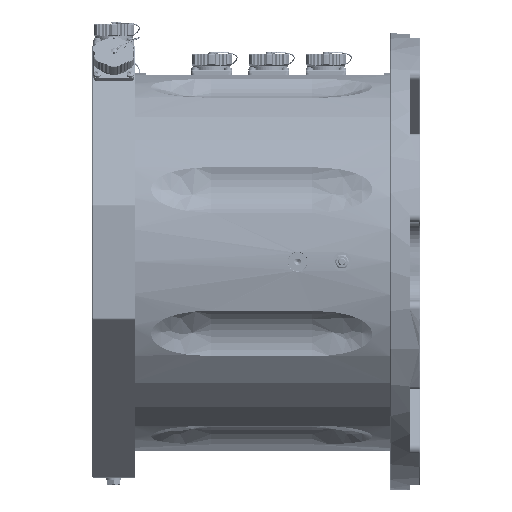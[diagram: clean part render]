
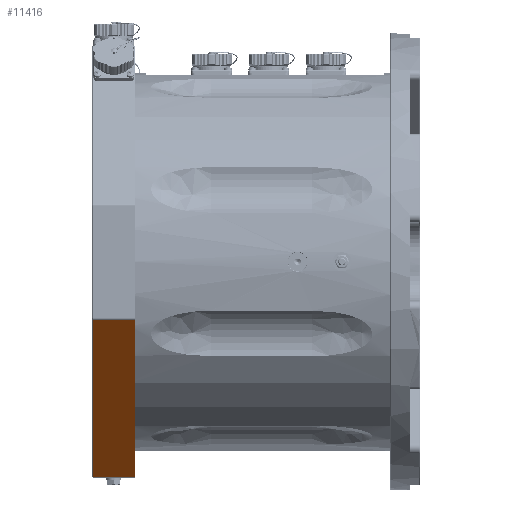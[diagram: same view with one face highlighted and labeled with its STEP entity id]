
A CAD part, left-side view. The second image highlights one B-rep face of the part: STEP entity #11416.
In plain terms, the highlighted planar face has unit normal (-0.707, 0, -0.707) as drawn and (1, 0, 0) by its records, which use the part's own axes.
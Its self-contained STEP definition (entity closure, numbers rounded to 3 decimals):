
#11416=ADVANCED_FACE('',(#29655),#29657,.T.);
#29655=FACE_BOUND('',#29656,.T.);
#29656=EDGE_LOOP('',(#44368,#44369,#44370,#44371));
#29657=PLANE('',#29658);
#29658=AXIS2_PLACEMENT_3D('',#29659,#29660,#29661);
#29659=CARTESIAN_POINT('',(152.,-102.588,0.));
#29660=DIRECTION('',(1.,0.,0.));
#29661=DIRECTION('',(0.,1.,0.));
#44368=ORIENTED_EDGE('',*,*,#52130,.F.);
#44369=ORIENTED_EDGE('',*,*,#52153,.T.);
#44370=ORIENTED_EDGE('',*,*,#52194,.F.);
#44371=ORIENTED_EDGE('',*,*,#52208,.F.);
#52130=EDGE_CURVE('',#58219,#58224,#58228,.T.);
#52153=EDGE_CURVE('',#58219,#58263,#58265,.T.);
#52194=EDGE_CURVE('',#58325,#58263,#58333,.T.);
#52208=EDGE_CURVE('',#58224,#58325,#58353,.T.);
#58219=VERTEX_POINT('',#71324);
#58224=VERTEX_POINT('',#71337);
#58228=LINE('',#71345,#71346);
#58263=VERTEX_POINT('',#71432);
#58265=LINE('',#71437,#71438);
#58325=VERTEX_POINT('',#71587);
#58333=LINE('',#71607,#71608);
#58353=LINE('',#71659,#71660);
#71324=CARTESIAN_POINT('',(152.,72.588,-14.5));
#71337=CARTESIAN_POINT('',(152.,-102.588,-14.5));
#71345=CARTESIAN_POINT('',(152.,72.588,-14.5));
#71346=VECTOR('',#71347,1.);
#71347=DIRECTION('',(0.,-1.,0.));
#71432=CARTESIAN_POINT('',(152.,72.588,18.4));
#71437=CARTESIAN_POINT('',(152.,72.588,-14.5));
#71438=VECTOR('',#71439,1.);
#71439=DIRECTION('',(0.,0.,1.));
#71587=CARTESIAN_POINT('',(152.,-102.588,18.4));
#71607=CARTESIAN_POINT('',(152.,-102.588,18.4));
#71608=VECTOR('',#71609,1.);
#71609=DIRECTION('',(0.,1.,0.));
#71659=CARTESIAN_POINT('',(152.,-102.588,-14.5));
#71660=VECTOR('',#71661,1.);
#71661=DIRECTION('',(0.,0.,1.));
